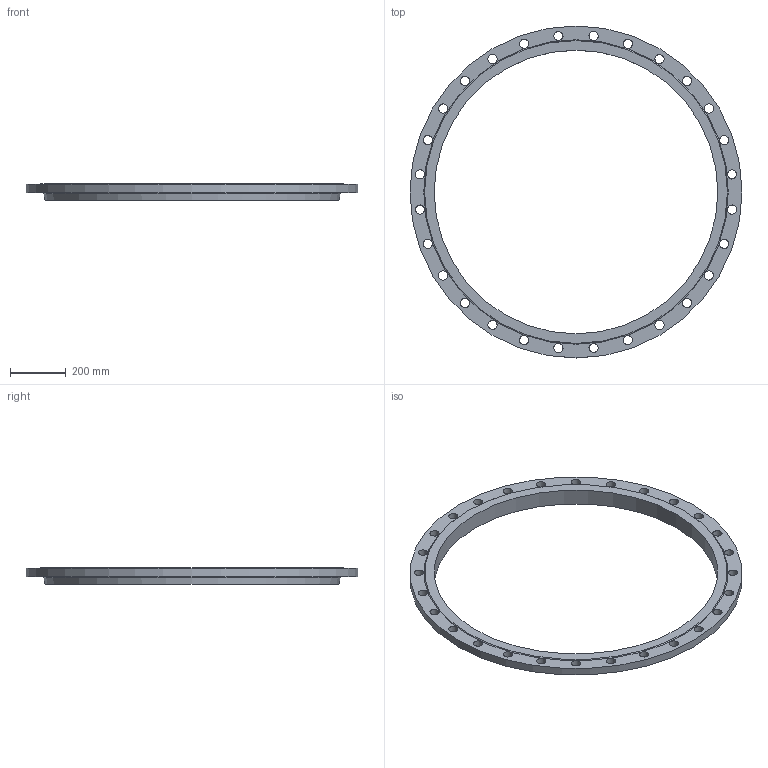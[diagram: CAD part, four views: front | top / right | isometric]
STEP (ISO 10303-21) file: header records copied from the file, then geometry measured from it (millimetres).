
FILE_DESCRIPTION(/* description */ (''),/* implementation_level */ '2;1');
FILE_NAME(/* name */ 'C:\Users\D\Documents\Inventor\HP\JIS\フランジ\JIS 5k soh rf\jis5k-soh-rf-1000.stp',/* time_stamp */ '2024-08-29T14:25:52+09:00',/* author */ ('D'),/* organization */ (''),/* preprocessor_version */ 'ST-DEVELOPER v18',/* originating_system */ 'Autodesk Inventor 2020',/* authorisation */ '');
FILE_SCHEMA (('AUTOMOTIVE_DESIGN { 1 0 10303 214 3 1 1 }'));
Length unit declared in the file: millimetre
Products named in the file (1): jis5k-soh-ff-450
Bounding box: 1195 x 1195 x 60 mm (x, y, z)
Volume: 10328636.1 mm3; surface area: 1025064.7 mm2
Topology: 1 solids, 1 shells, 37 faces, 107 edges, 74 vertices
Faces by surface type: cylinder 30, plane 4, torus 2, cone 1
Full cylindrical faces by diameter (mm): 33 x28, 1021 x1, 1195 x1
Entity records: 1438 total; most frequent: DIRECTION 259, CARTESIAN_POINT 219, ORIENTED_EDGE 214, AXIS2_PLACEMENT_3D 114, EDGE_CURVE 107, EDGE_LOOP 97, CIRCLE 76, VERTEX_POINT 74
